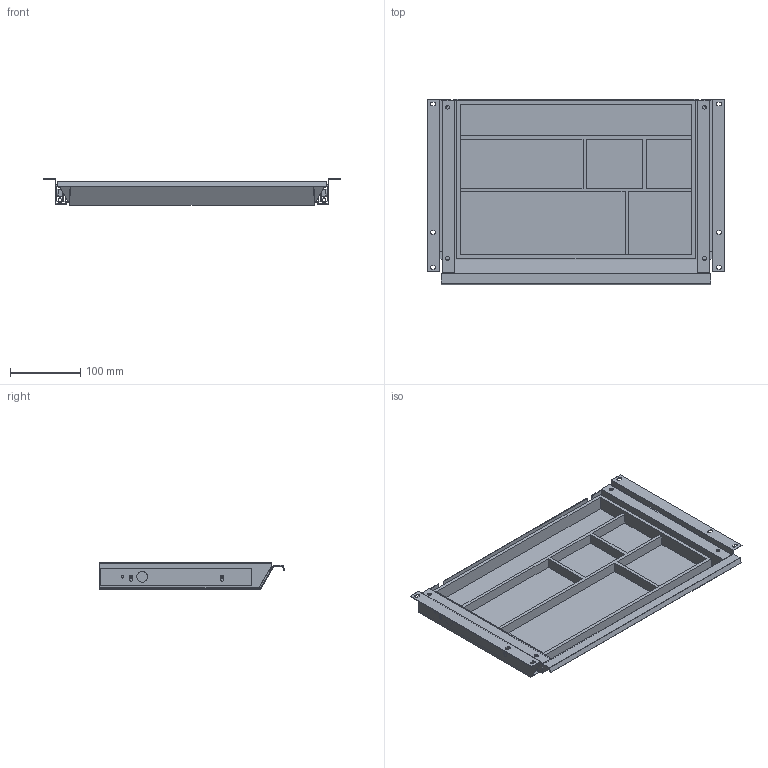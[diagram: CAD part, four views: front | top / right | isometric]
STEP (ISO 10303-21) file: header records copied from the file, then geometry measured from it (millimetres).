
FILE_DESCRIPTION( ( 'STEP AP214' ), '1' );
FILE_NAME( 'C:/Users/KOSH/Desktop/New folder/9309819.stp', '2022-01-27T11:25:59', ( '' ), ( '' ), ' ', 'PARTsolutions', ' ' );
FILE_SCHEMA( ( 'AUTOMOTIVE_DESIGN { 1 0 10303 214 1 1 1 1 }' ) );
Length unit declared in the file: millimetre
Products named in the file (11): 9309819; _outer sheet_21; _ka3_11; _ka3_r_14; _outer sheet_r_22; _tray_sn_30; _tray_1_27; _ka1_7; _ka1_r_10; _ka2_15; _ka2_r_18
Assembly tree (10 placements, depth 2):
  9309819
    _outer sheet_21
    _ka3_11
    _ka3_r_14
    _outer sheet_r_22
    _tray_sn_30
    _tray_1_27
    _ka1_7
    _ka1_r_10
    _ka2_15
    _ka2_r_18
Bounding box: 424.6 x 264.47 x 38.4 mm (x, y, z)
Volume: 794684.5 mm3; surface area: 670882.5 mm2
Topology: 10 solids, 10 shells, 362 faces, 1006 edges, 676 vertices
Faces by surface type: plane 280, cylinder 82
Full cylindrical faces by diameter (mm): 3.5 x10, 4.5 x4, 5.2 x4, 5.5 x4, 5.9 x2, 10 x2, 15.5 x2
Entity records: 14398 total; most frequent: CARTESIAN_POINT 1983, ORIENTED_EDGE 1912, DIRECTION 1866, EDGE_CURVE 956, LINE 792, VECTOR 792, VERTEX_POINT 654, AXIS2_PLACEMENT_3D 537
